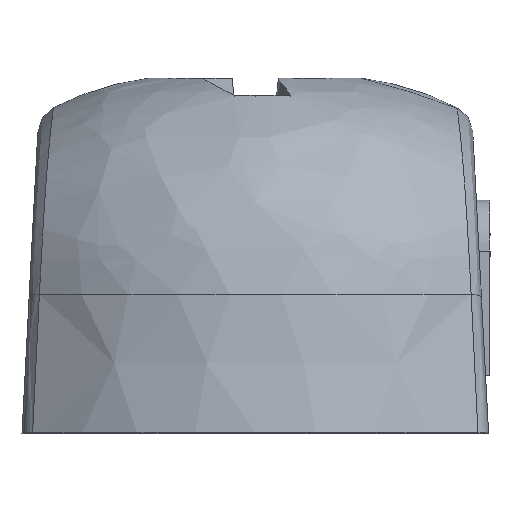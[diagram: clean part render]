
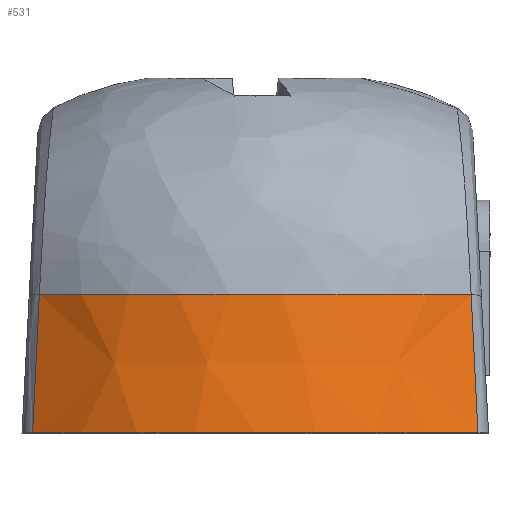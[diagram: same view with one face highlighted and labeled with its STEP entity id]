
A CAD part, top view. The second image highlights one B-rep face of the part: STEP entity #531.
In plain terms, the highlighted conical face has half-angle 8 degrees and reference radius 22.665 mm.
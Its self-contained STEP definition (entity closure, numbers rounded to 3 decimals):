
#329 = DIRECTION ( 'NONE',  ( 0., 1., 0. ) ) ;
#531 = ADVANCED_FACE ( 'NONE', ( #630 ), #2193, .T. ) ;
#586 = DIRECTION ( 'NONE',  ( 0., -1., 0. ) ) ;
#613 = EDGE_CURVE ( 'NONE', #1510, #2035, #1048, .T. ) ;
#630 = FACE_OUTER_BOUND ( 'NONE', #2943, .T. ) ;
#729 = CARTESIAN_POINT ( 'NONE',  ( 15.143, -21.863, 18.14 ) ) ;
#797 = VERTEX_POINT ( 'NONE', #1572 ) ;
#1033 = CARTESIAN_POINT ( 'NONE',  ( 15.078, -20.544, 17.952 ) ) ;
#1048 = CIRCLE ( 'NONE', #1130, 22.665 ) ;
#1107 = CARTESIAN_POINT ( 'NONE',  ( -15.272, -24.5, 18.514 ) ) ;
#1130 = AXIS2_PLACEMENT_3D ( 'NONE', #3111, #329, #1299 ) ;
#1299 = DIRECTION ( 'NONE',  ( 0., 0., 1. ) ) ;
#1321 = CARTESIAN_POINT ( 'NONE',  ( 15.272, -24.5, 18.514 ) ) ;
#1348 = CARTESIAN_POINT ( 'NONE',  ( 14.898, -16.848, 17.424 ) ) ;
#1381 = CARTESIAN_POINT ( 'NONE',  ( -14.872, -16.318, 17.348 ) ) ;
#1416 = ORIENTED_EDGE ( 'NONE', *, *, #3579, .T. ) ;
#1510 = VERTEX_POINT ( 'NONE', #2373 ) ;
#1526 = ORIENTED_EDGE ( 'NONE', *, *, #2935, .T. ) ;
#1532 = ORIENTED_EDGE ( 'NONE', *, *, #3420, .T. ) ;
#1572 = CARTESIAN_POINT ( 'NONE',  ( 15.272, -24.5, 18.514 ) ) ;
#1630 = AXIS2_PLACEMENT_3D ( 'NONE', #2146, #586, #3673 ) ;
#1721 = CARTESIAN_POINT ( 'NONE',  ( 14.808, -15., 17.159 ) ) ;
#1730 = CARTESIAN_POINT ( 'NONE',  ( -15.181, -22.652, 18.252 ) ) ;
#1833 = B_SPLINE_CURVE_WITH_KNOTS ( 'NONE', 3,
 ( #3236, #1381, #3590, #3054, #2162, #1730, #4023 ),
 .UNSPECIFIED., .F., .F.,
 ( 4, 3, 4 ),
 ( 0., 0.004, 0.01 ),
 .UNSPECIFIED. ) ;
#1943 = DIRECTION ( 'NONE',  ( 0., 1., 0. ) ) ;
#2035 = VERTEX_POINT ( 'NONE', #1721 ) ;
#2146 = CARTESIAN_POINT ( 'NONE',  ( 0., -15., 0. ) ) ;
#2162 = CARTESIAN_POINT ( 'NONE',  ( -15.091, -20.803, 17.989 ) ) ;
#2193 = CONICAL_SURFACE ( 'NONE', #1630, 22.665, 0.14 ) ;
#2373 = CARTESIAN_POINT ( 'NONE',  ( -14.808, -15., 17.159 ) ) ;
#2418 = VERTEX_POINT ( 'NONE', #1107 ) ;
#2600 = CARTESIAN_POINT ( 'NONE',  ( 15.207, -23.181, 18.327 ) ) ;
#2849 = DIRECTION ( 'NONE',  ( 0., 0., 1. ) ) ;
#2875 = CIRCLE ( 'NONE', #3291, 24. ) ;
#2935 = EDGE_CURVE ( 'NONE', #797, #2035, #3044, .T. ) ;
#2943 = EDGE_LOOP ( 'NONE', ( #1416, #1526, #3890, #1532 ) ) ;
#3044 = B_SPLINE_CURVE_WITH_KNOTS ( 'NONE', 3,
 ( #1321, #2600, #729, #1033, #3203, #1348, #3531 ),
 .UNSPECIFIED., .F., .F.,
 ( 4, 3, 4 ),
 ( 0., 0.004, 0.01 ),
 .UNSPECIFIED. ) ;
#3054 = CARTESIAN_POINT ( 'NONE',  ( -15.001, -18.955, 17.725 ) ) ;
#3111 = CARTESIAN_POINT ( 'NONE',  ( 0., -15., 0. ) ) ;
#3203 = CARTESIAN_POINT ( 'NONE',  ( 14.988, -18.696, 17.689 ) ) ;
#3236 = CARTESIAN_POINT ( 'NONE',  ( -14.808, -15., 17.159 ) ) ;
#3291 = AXIS2_PLACEMENT_3D ( 'NONE', #4033, #1943, #2849 ) ;
#3420 = EDGE_CURVE ( 'NONE', #1510, #2418, #1833, .T. ) ;
#3531 = CARTESIAN_POINT ( 'NONE',  ( 14.808, -15., 17.159 ) ) ;
#3579 = EDGE_CURVE ( 'NONE', #2418, #797, #2875, .T. ) ;
#3590 = CARTESIAN_POINT ( 'NONE',  ( -14.936, -17.637, 17.537 ) ) ;
#3673 = DIRECTION ( 'NONE',  ( 0., 0., -1. ) ) ;
#3890 = ORIENTED_EDGE ( 'NONE', *, *, #613, .F. ) ;
#4023 = CARTESIAN_POINT ( 'NONE',  ( -15.272, -24.5, 18.514 ) ) ;
#4033 = CARTESIAN_POINT ( 'NONE',  ( 0., -24.5, 0. ) ) ;
